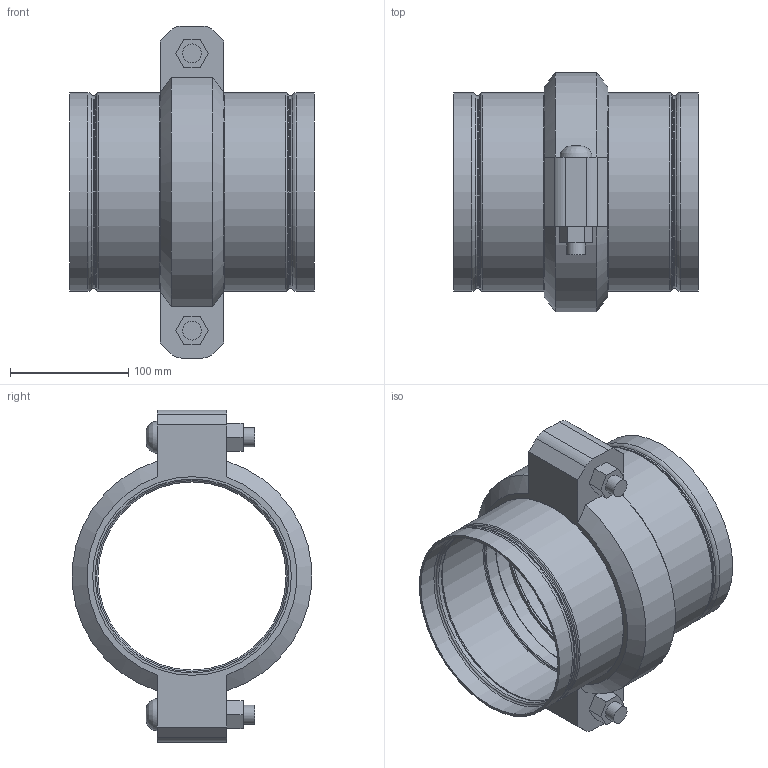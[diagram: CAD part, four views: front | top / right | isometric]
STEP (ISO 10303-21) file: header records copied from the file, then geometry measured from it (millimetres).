
FILE_DESCRIPTION(/* description */ ('VIC STRENGTHIN 100 EXPANSION JOINT 1 COUPLING EXPANDED STYLE E155 (ST1)','CAx-IF Rec.Pracs.---Representation and Presentation of Product Manufacturing Information (PMI)---4.0---2014-10-13'),/* implementation_level */ '2;1');
FILE_NAME(/* name */ 'C:\Users\Vjadhav\AppData\Roaming\Autodesk\ApplicationPlugins\Victaulic.Temp\A475\Victaulic_SS-StrengThin 100_Expansion Joint_Expanded_1 Coupling_Style E155 (ST1)_6 (150).stp',/* time_stamp */ '2021-07-23T19:22:07+06:00',/* author */ ('kkamble'),/* organization */ ('Victaulic'),/* preprocessor_version */ 'ST-DEVELOPER v17.2',/* originating_system */ 'Autodesk Inventor 2019',/* authorisation */ '');
FILE_SCHEMA (('AP242_MANAGED_MODEL_BASED_3D_ENGINEERING_MIM_LF { 1 0 10303 442 1 1 4 }'));
Length unit declared in the file: inch
Products named in the file (3): E155-06.0; E494G-06.0; 075-06.0
Assembly tree (3 placements, depth 2):
  E155-06.0
    E494G-06.0  x2
    075-06.0
Bounding box: 207.26 x 202.46 x 281.18 mm (x, y, z)
Volume: 978654.4 mm3; surface area: 339281.9 mm2
Topology: 3 solids, 5 shells, 125 faces, 355 edges, 256 vertices
Faces by surface type: plane 48, cylinder 35, torus 32, cone 8, bspline 2
Full cylindrical faces by diameter (mm): 15.875 x4, 17.424 x2, 159.258 x2, 159.944 x2, 161.925 x1, 163.271 x2, 163.957 x2, 164.262 x6, 168.275 x8
Entity records: 3250 total; most frequent: CARTESIAN_POINT 582, DIRECTION 569, ORIENTED_EDGE 488, EDGE_CURVE 244, AXIS2_PLACEMENT_3D 238, VERTEX_POINT 173, CIRCLE 143, EDGE_LOOP 111
